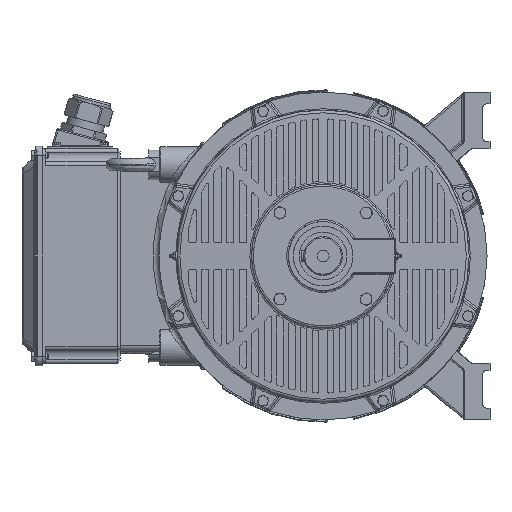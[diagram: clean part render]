
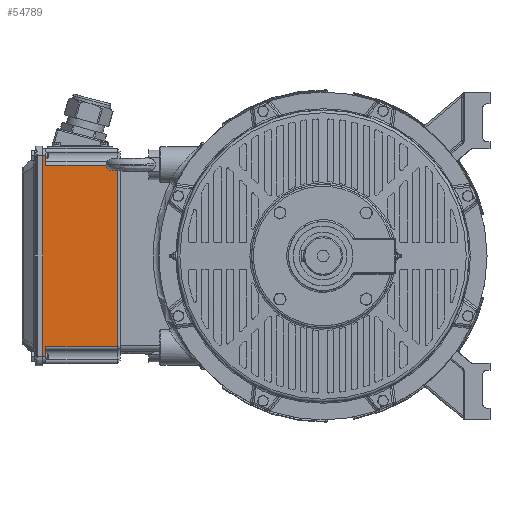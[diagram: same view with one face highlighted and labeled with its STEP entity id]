
A CAD part, left-side view. The second image highlights one B-rep face of the part: STEP entity #54789.
In plain terms, the highlighted planar face has unit normal (-1, 0, 0).
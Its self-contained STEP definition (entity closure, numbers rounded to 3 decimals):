
#54000=CARTESIAN_POINT('',(362.0,345.0,152.5));
#54001=VERTEX_POINT('',#54000);
#54025=CARTESIAN_POINT('',(362.,345.0,-152.5));
#54026=VERTEX_POINT('',#54025);
#54035=CARTESIAN_POINT('',(362.,345.0,152.5));
#54036=DIRECTION('',(0.0,0.0,-1.0));
#54037=VECTOR('',#54036,305.0);
#54038=LINE('',#54035,#54037);
#54039=EDGE_CURVE('',#54001,#54026,#54038,.T.);
#54241=CARTESIAN_POINT('',(362.0,465.0,152.5));
#54242=VERTEX_POINT('',#54241);
#54250=CARTESIAN_POINT('',(362.0,465.0,152.5));
#54251=DIRECTION('',(0.0,-1.0,0.0));
#54252=VECTOR('',#54251,120.0);
#54253=LINE('',#54250,#54252);
#54254=EDGE_CURVE('',#54242,#54001,#54253,.T.);
#54514=CARTESIAN_POINT('',(362.,465.0,-152.5));
#54515=VERTEX_POINT('',#54514);
#54516=CARTESIAN_POINT('',(362.,345.0,-152.5));
#54517=DIRECTION('',(0.0,1.0,0.0));
#54518=VECTOR('',#54517,120.0);
#54519=LINE('',#54516,#54518);
#54520=EDGE_CURVE('',#54026,#54515,#54519,.T.);
#54696=CARTESIAN_POINT('',(362.,465.0,168.5));
#54697=VERTEX_POINT('',#54696);
#54705=CARTESIAN_POINT('',(362.,465.0,168.5));
#54706=DIRECTION('',(0.0,0.0,-1.0));
#54707=VECTOR('',#54706,16.0);
#54708=LINE('',#54705,#54707);
#54709=EDGE_CURVE('',#54697,#54242,#54708,.T.);
#54748=CARTESIAN_POINT('',(362.0,479.5,-168.5));
#54749=DIRECTION('',(-1.0,0.0,0.0));
#54750=DIRECTION('',(0.0,1.0,0.0));
#54751=AXIS2_PLACEMENT_3D('',#54748,#54749,#54750);
#54752=PLANE('',#54751);
#54753=ORIENTED_EDGE('',*,*,#54039,.F.);
#54754=ORIENTED_EDGE('',*,*,#54254,.F.);
#54755=ORIENTED_EDGE('',*,*,#54709,.F.);
#54756=CARTESIAN_POINT('',(362.,479.5,168.5));
#54757=VERTEX_POINT('',#54756);
#54758=CARTESIAN_POINT('',(362.,479.5,168.5));
#54759=DIRECTION('',(0.0,-1.0,0.0));
#54760=VECTOR('',#54759,14.5);
#54761=LINE('',#54758,#54760);
#54762=EDGE_CURVE('',#54757,#54697,#54761,.T.);
#54763=ORIENTED_EDGE('',*,*,#54762,.F.);
#54764=CARTESIAN_POINT('',(362.0,479.5,-168.5));
#54765=VERTEX_POINT('',#54764);
#54766=CARTESIAN_POINT('',(362.,479.5,168.5));
#54767=DIRECTION('',(0.0,0.0,-1.0));
#54768=VECTOR('',#54767,337.);
#54769=LINE('',#54766,#54768);
#54770=EDGE_CURVE('',#54757,#54765,#54769,.T.);
#54771=ORIENTED_EDGE('',*,*,#54770,.T.);
#54772=CARTESIAN_POINT('',(362.0,465.0,-168.5));
#54773=VERTEX_POINT('',#54772);
#54774=CARTESIAN_POINT('',(362.0,479.5,-168.5));
#54775=DIRECTION('',(0.0,-1.0,0.0));
#54776=VECTOR('',#54775,14.5);
#54777=LINE('',#54774,#54776);
#54778=EDGE_CURVE('',#54765,#54773,#54777,.T.);
#54779=ORIENTED_EDGE('',*,*,#54778,.T.);
#54780=CARTESIAN_POINT('',(362.,465.0,-152.5));
#54781=DIRECTION('',(0.0,0.0,-1.0));
#54782=VECTOR('',#54781,16.);
#54783=LINE('',#54780,#54782);
#54784=EDGE_CURVE('',#54515,#54773,#54783,.T.);
#54785=ORIENTED_EDGE('',*,*,#54784,.F.);
#54786=ORIENTED_EDGE('',*,*,#54520,.F.);
#54787=EDGE_LOOP('',(#54753,#54754,#54755,#54763,#54771,#54779,#54785,#54786));
#54788=FACE_OUTER_BOUND('',#54787,.T.);
#54789=ADVANCED_FACE('',(#54788),#54752,.T.);
